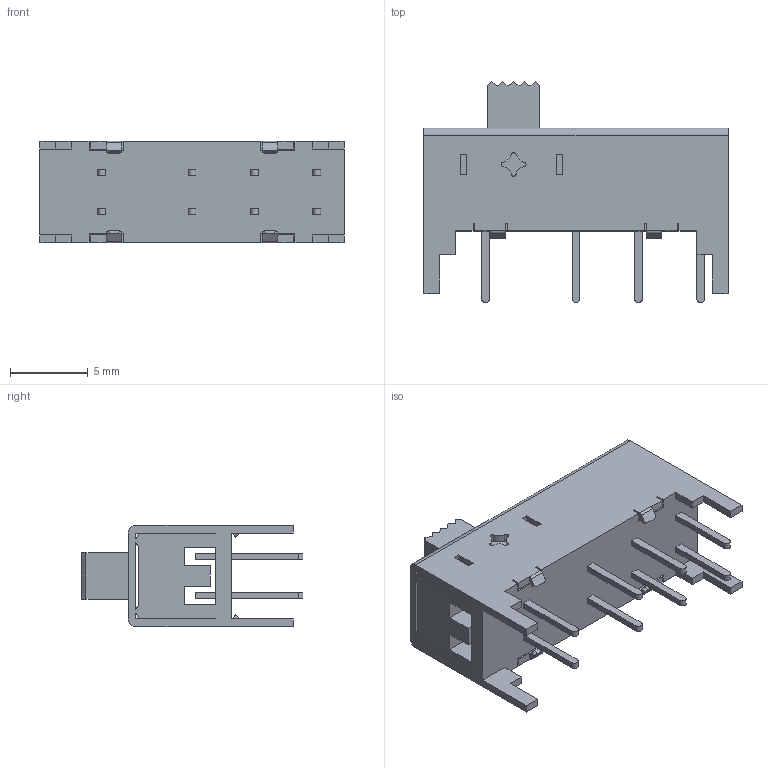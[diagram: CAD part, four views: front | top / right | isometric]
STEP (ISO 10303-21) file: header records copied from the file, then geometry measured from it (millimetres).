
FILE_DESCRIPTION((''),'2;1');
FILE_NAME('SS23H38L3_ASM','2022-10-11T11:19:15',('gdxia'),(''),'CREO PARAMETRIC BY PTC INC, 2020053','CREO PARAMETRIC BY PTC INC, 2020053','');
FILE_SCHEMA(('CONFIG_CONTROL_DESIGN'));
Length unit declared in the file: millimetre
Products named in the file (4): SS23H38L3_1_1; SS23H38L3_1_2; SS23H38L3_1_ASM; SS23H38L3_ASM
Assembly tree (3 placements, depth 3):
  SS23H38L3_ASM
    SS23H38L3_1_ASM
      SS23H38L3_1_1
      SS23H38L3_1_2
Bounding box: 19.5 x 14.21 x 6.5 mm (x, y, z)
Volume: 737.6 mm3; surface area: 1624.7 mm2
Topology: 2 solids, 2 shells, 762 faces, 2159 edges, 1440 vertices
Faces by surface type: plane 712, cylinder 50
Entity records: 24454 total; most frequent: CARTESIAN_POINT 4387, ORIENTED_EDGE 4318, DIRECTION 3801, EDGE_CURVE 2159, VECTOR 2051, LINE 2051, VERTEX_POINT 1440, AXIS2_PLACEMENT_3D 875
